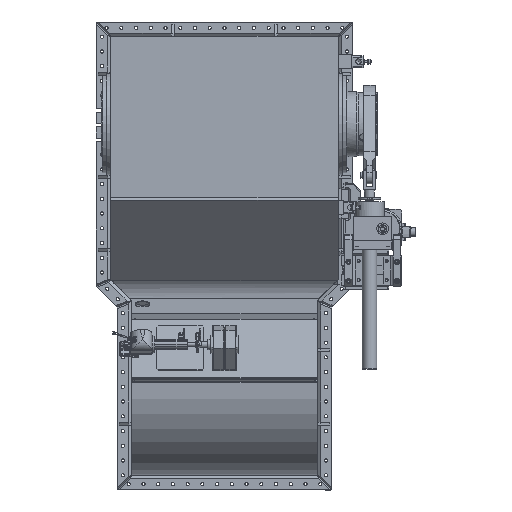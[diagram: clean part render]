
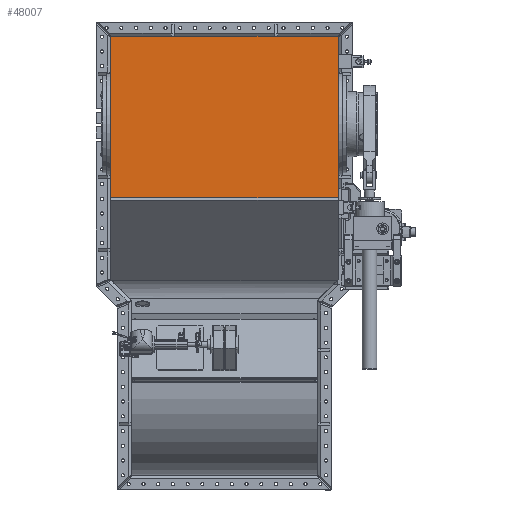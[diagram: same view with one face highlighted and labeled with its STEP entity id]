
A CAD part, top view. The second image highlights one B-rep face of the part: STEP entity #48007.
In plain terms, the highlighted planar face has unit normal (0, 0, 1).
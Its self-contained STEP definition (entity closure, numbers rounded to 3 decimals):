
#3487=FACE_OUTER_BOUND('',#6290,.T.);
#6290=EDGE_LOOP('',(#36213,#36214,#36215,#36216));
#12145=LINE('',#76018,#16132);
#12146=LINE('',#76020,#16133);
#12147=LINE('',#76022,#16134);
#12148=LINE('',#76023,#16135);
#16132=VECTOR('',#61692,10.);
#16133=VECTOR('',#61693,10.);
#16134=VECTOR('',#61694,10.);
#16135=VECTOR('',#61695,10.);
#20502=VERTEX_POINT('',#76016);
#20503=VERTEX_POINT('',#76017);
#20504=VERTEX_POINT('',#76019);
#20505=VERTEX_POINT('',#76021);
#26089=EDGE_CURVE('',#20502,#20503,#12145,.T.);
#26090=EDGE_CURVE('',#20504,#20502,#12146,.T.);
#26091=EDGE_CURVE('',#20505,#20504,#12147,.T.);
#26092=EDGE_CURVE('',#20503,#20505,#12148,.T.);
#36213=ORIENTED_EDGE('',*,*,#26089,.F.);
#36214=ORIENTED_EDGE('',*,*,#26090,.F.);
#36215=ORIENTED_EDGE('',*,*,#26091,.F.);
#36216=ORIENTED_EDGE('',*,*,#26092,.F.);
#43424=PLANE('',#51963);
#48007=ADVANCED_FACE('',(#3487),#43424,.T.);
#51963=AXIS2_PLACEMENT_3D('',#76015,#61690,#61691);
#61690=DIRECTION('center_axis',(0.,0.,
1.));
#61691=DIRECTION('ref_axis',(0.,1.,0.));
#61692=DIRECTION('',(-1.,0.,0.));
#61693=DIRECTION('',(0.,-1.,0.));
#61694=DIRECTION('',(1.,0.,0.));
#61695=DIRECTION('',(0.,1.,0.));
#76015=CARTESIAN_POINT('Origin',(258.581,746.13,742.));
#76016=CARTESIAN_POINT('',(644.081,472.63,742.));
#76017=CARTESIAN_POINT('',(-126.919,472.63,742.));
#76018=CARTESIAN_POINT('',(644.081,472.63,742.));
#76019=CARTESIAN_POINT('',(644.081,1019.63,742.));
#76020=CARTESIAN_POINT('',(644.081,1019.63,742.));
#76021=CARTESIAN_POINT('',(-126.919,1019.63,742.));
#76022=CARTESIAN_POINT('',(-126.919,1019.63,742.));
#76023=CARTESIAN_POINT('',(-126.919,472.63,742.));
